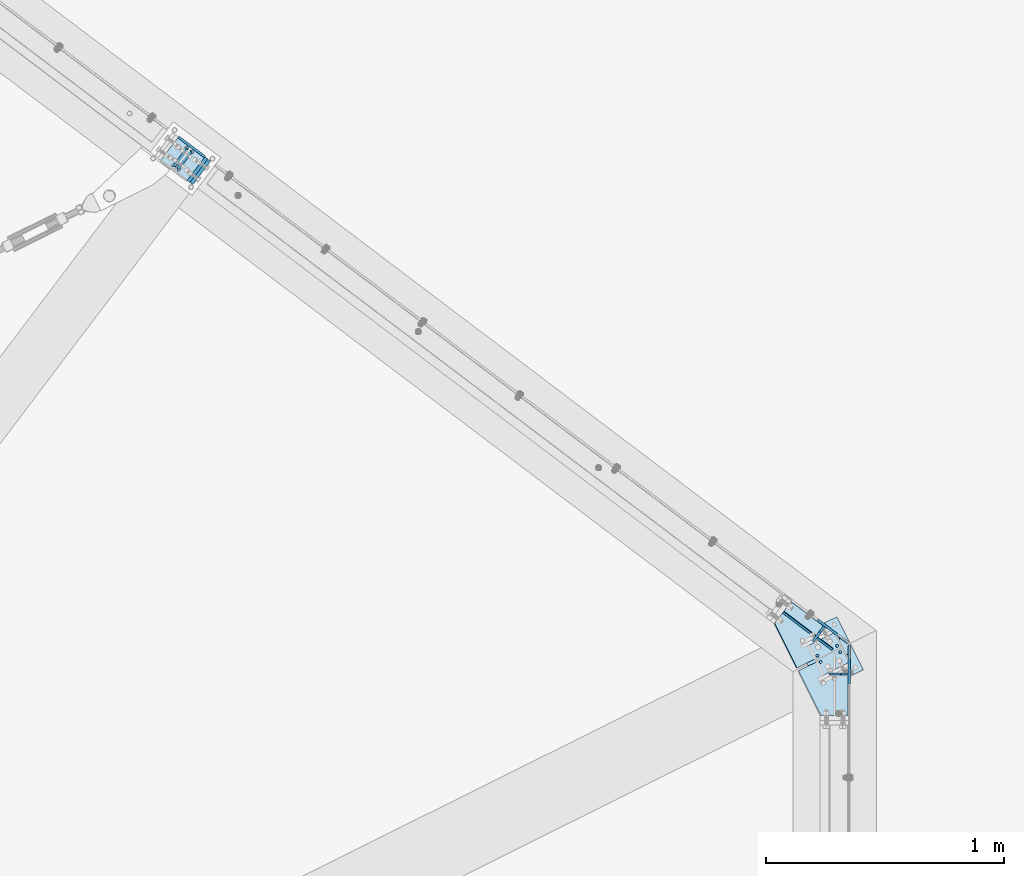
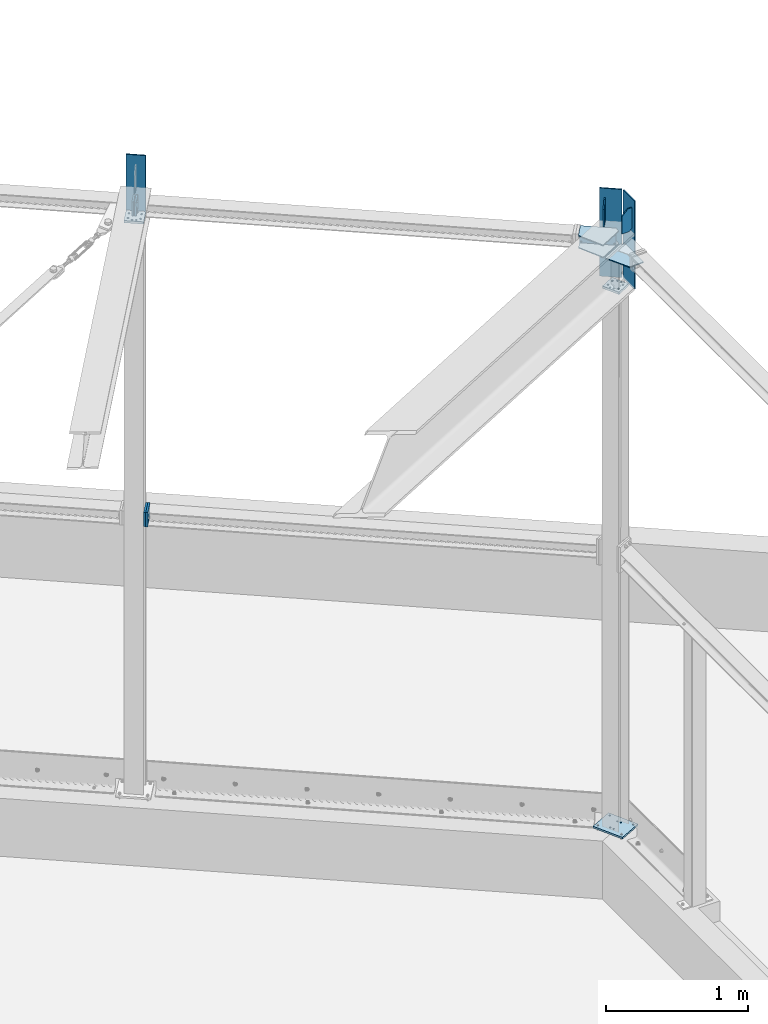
# One storey, part 66 of 476: 16 plates, 61 openings.
"""IFC2X3 building model written with IfcOpenShell, lengths in millimetres."""

from ifc_helpers import new_model, entity, si_unit, converted_unit, frame, frame_2d, origin, origin_with_axes, origin_2d_with_axis, place, context, project, spatial, polyline, circle, outline, extrude, material, layer, layer_set, element, save


model = new_model("IFC2X3")

# Units and contexts
model_context = context("Model", 3, precision=1e-09, world=origin_with_axes())
ifc_project = project(units=[si_unit("LENGTHUNIT", "METRE", prefix="MILLI"), si_unit("AREAUNIT", "SQUARE_METRE"), si_unit("VOLUMEUNIT", "CUBIC_METRE"), converted_unit("PLANEANGLEUNIT", "DEGREE", entity("IfcPlaneAngleMeasure", 0.01745329), si_unit("PLANEANGLEUNIT", "RADIAN"), dimensions=[0, 0, 0, 0, 0, 0, 0])], contexts=[model_context])

# Site, building, storey
site_placement = place(None, origin_with_axes())
site = spatial("IfcSite", under=ifc_project, at=site_placement, Name="mKR Teilneubau & Sanierung BA1 - Ostfildern", CompositionType="ELEMENT")
building_placement = place(site_placement, origin_with_axes())
building = spatial("IfcBuilding", under=site, at=building_placement, Name="Struktur 1", CompositionType="ELEMENT")
storey_placement = place(building_placement, origin_with_axes())
storey = spatial("IfcBuildingStorey", under=building, at=storey_placement, Name="Default Storey", CompositionType="ELEMENT", Elevation=0.0)

# Plate, openings
ifc_material = material(Name="S235JR")
ifc_layer_1 = layer(ifc_material, 10.0)
ifc_layer_set_1 = layer_set([ifc_layer_1], Name="S235JR")
plate_1_placement = place(None, frame((21942.107764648, 829.960737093, 5888.279672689), z_axis=(0.0, 1.0, 0.0), x_axis=(1.0, 0.0, 0.0)))
plate_1 = element("IfcPlate", 1, at=plate_1_placement, inside=storey, material=ifc_layer_set_1, Name="-", ObjectType="-", context=model_context, shape_type="SweptSolid", body=[
    extrude(outline(polyline([(0.0, 0.0), (80.0, 0.0), (80.0, 197.595559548), (0.0, 200.0), (0.0, 0.0)])), origin_with_axes(), (0.0, 0.0, -1.0), 10.0),
])
opening_1_placement = place(plate_1_placement, frame((0.0, 0.0, 0.01), z_axis=(0.0, 0.0, 1.0), x_axis=(1.0, 0.0, 0.0)))
element("IfcOpeningElement", 2, at=opening_1_placement, cuts=plate_1, ObjectType="Opening", context=model_context, shape_type="SweptSolid", body=[
    extrude(outline(polyline([(0.0, 0.0), (50.0, 0.0), (0.0, 50.0), (0.0, 0.0)])), origin(), (0.0, 0.0, -1.0), 10.02),
])
opening_2_placement = place(plate_1_placement, frame((80.0, 197.595559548, 0.01), z_axis=(0.0, 0.0, 1.0), x_axis=(-0.999548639, 0.03004194, 0.0)))
element("IfcOpeningElement", 3, at=opening_2_placement, cuts=plate_1, ObjectType="Opening", context=model_context, shape_type="SweptSolid", body=[
    extrude(outline(polyline([(0.0, 0.0), (20.0, 0.0), (-0.600838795, 19.990972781), (0.0, 0.0)])), origin(), (0.0, 0.0, -1.0), 10.02),
])

plate_2_placement = place(None, frame((21878.135988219, 958.45353355, 5888.279672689), z_axis=(-0.797941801, 0.602734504, 0.0), x_axis=(0.602734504, 0.797941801, 0.0)))
plate_2 = element("IfcPlate", 4, at=plate_2_placement, inside=storey, material=ifc_layer_set_1, Name="-", ObjectType="-", context=model_context, shape_type="SweptSolid", body=[
    extrude(outline(polyline([(0.0, 0.0), (80.0, 0.0), (80.0, 197.595559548), (0.0, 200.0), (0.0, 0.0)])), origin_with_axes(), (0.0, 0.0, 1.0), 10.0),
])
opening_3_placement = place(plate_2_placement, frame((0.0, 0.0, -0.01), z_axis=(0.0, 0.0, 1.0), x_axis=(1.0, 0.0, 0.0)))
element("IfcOpeningElement", 5, at=opening_3_placement, cuts=plate_2, ObjectType="Opening", context=model_context, shape_type="SweptSolid", body=[
    extrude(outline(polyline([(0.0, 0.0), (50.0, 0.0), (0.0, 50.0), (0.0, 0.0)])), origin(), (0.0, 0.0, 1.0), 10.02),
])
opening_4_placement = place(plate_2_placement, frame((0.0, 0.0, -0.01), z_axis=(0.0, 0.0, 1.0), x_axis=(1.0, 0.0, 0.0)))
element("IfcOpeningElement", 6, at=opening_4_placement, cuts=plate_2, ObjectType="Opening", context=model_context, shape_type="SweptSolid", body=[
    extrude(outline(polyline([(80.0, 197.595559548), (60.009027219, 198.196398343), (80.0, 177.595559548), (80.0, 197.595559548)])), origin(), (0.0, 0.0, 1.0), 10.02),
])

# Plate
plate_3_placement = place(None, frame((21906.406203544, 1037.357240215, 5205.506812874), z_axis=(-0.602734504, -0.797941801, 0.0), x_axis=(0.797941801, -0.602734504, 0.0)))
element("IfcPlate", 7, at=plate_3_placement, inside=storey, material=ifc_layer_set_1, Name="Coverplate", ObjectType="Coverplate", context=model_context, shape_type="SweptSolid", body=[
    extrude(outline(polyline([(-20.0, 0.0), (140.0, 0.0), (140.0, 760.177323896), (-20.0, 760.177323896), (-20.0, 0.0)])), origin_with_axes(), (0.0, 0.0, -1.0), 10.0),
])

# Plate, openings
ifc_layer_2 = layer(ifc_material, 8.0)
ifc_layer_set_2 = layer_set([ifc_layer_2], Name="S235JR")
plate_4_placement = place(None, frame((21907.107917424, 649.960737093, 5521.206813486), z_axis=(0.030041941, 0.0, -0.999548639), x_axis=(-0.445320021, 0.895271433, -0.013384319)))
plate_4 = element("IfcPlate", 8, at=plate_4_placement, inside=storey, material=ifc_layer_set_2, Name="-", ObjectType="-", context=model_context, shape_type="SweptSolid", body=[
    extrude(outline(polyline([(0.0, 0.0), (237.931881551, 0.0), (237.931881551, 297.115051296), (-71.28112416, 143.238900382), (0.0, 0.0)])), origin_with_axes(), (0.0, 0.0, 1.0), 8.0),
])
opening_5_placement = place(plate_4_placement, frame((309.302532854, 153.920703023, 4.0), z_axis=(-0.895271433, -0.445521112, 0.0), x_axis=(-0.445320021, 0.894867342, 0.030041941)))
element("IfcOpeningElement", 9, at=opening_5_placement, cuts=plate_4, ObjectType="Opening", context=model_context, shape_type="SweptSolid", body=[
    extrude(outline(polyline([(207.658577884, -38.236422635), (207.658577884, 35.563907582), (112.792834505, 35.563907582), (115.531864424, -55.568472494), (207.658577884, -38.236422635)])), origin(), (0.0, 0.0, 1.0), 345.584644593),
])
opening_6_placement = place(plate_4_placement, frame((1.1e-08, 297.215051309, 3.999999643), z_axis=(0.0, -1.0, 0.0), x_axis=(-0.999910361, 0.0, 0.013389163)))
element("IfcOpeningElement", 10, at=opening_6_placement, cuts=plate_4, ObjectType="Opening", context=model_context, shape_type="SweptSolid", body=[
    extrude(outline(polyline([(-210.088988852, -26.795765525), (-210.700481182, 18.870829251), (-272.102433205, 18.870829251), (-272.102433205, -23.599890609), (-210.088988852, -26.795765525)])), origin(), (0.0, 0.0, 1.0), 297.315051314),
])
opening_7_placement = place(plate_4_placement, frame((0.0, 0.0, 8.1), z_axis=(0.0, 0.0, -1.0), x_axis=(0.0, 1.0, 0.0)))
element("IfcOpeningElement", 11, at=opening_7_placement, cuts=plate_4, ObjectType="Opening", context=model_context, shape_type="SweptSolid", body=[
    extrude(outline(polyline([(181.091011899, 237.707172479), (233.378176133, 147.143147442), (262.158711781, 239.871578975), (181.091011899, 237.707172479)])), origin(), (0.0, 0.0, 1.0), 8.2),
])

plate_5_placement = place(None, frame((21711.491473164, 1036.476900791, 5627.158969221), z_axis=(-0.018107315, -0.023971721, 0.999548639), x_axis=(0.445964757, -0.894950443, -0.013384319)))
plate_5 = element("IfcPlate", 12, at=plate_5_placement, inside=storey, material=ifc_layer_set_2, Name="-", ObjectType="-", context=model_context, shape_type="SweptSolid", body=[
    extrude(outline(polyline([(0.0, 0.0), (237.931881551, 0.0), (237.931881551, 297.115051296), (-71.28112416, 143.238900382), (0.0, 0.0)])), origin_with_axes(), (0.0, 0.0, -1.0), 8.0),
])
opening_8_placement = place(plate_5_placement, frame((257.178248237, 258.664073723, 32.270431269), z_axis=(0.895271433, 0.445521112, 0.0), x_axis=(0.0, 0.0, -1.0)))
element("IfcOpeningElement", 13, at=opening_8_placement, cuts=plate_5, ObjectType="Opening", context=model_context, shape_type="SweptSolid", body=[
    extrude(outline(polyline([(0.0, 0.0), (60.949028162, 0.0), (63.158070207, 73.498744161), (9.367271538, 75.115453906), (0.0, 0.0)])), origin(), (0.0, 0.0, -1.0), 345.584644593),
])
opening_9_placement = place(plate_5_placement, frame((209.00955109, 297.215051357, -49.808173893), z_axis=(0.0, 1.0, 0.0), x_axis=(0.0, 0.0, 1.0)))
element("IfcOpeningElement", 14, at=opening_9_placement, cuts=plate_5, ObjectType="Opening", context=model_context, shape_type="SweptSolid", body=[
    extrude(outline(polyline([(0.0, 0.0), (80.872375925, 0.0), (81.6087688, 54.994238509), (21.617775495, 55.79753975), (0.0, 0.0)])), origin(), (0.0, 0.0, -1.0), 297.315051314),
])
opening_10_placement = place(plate_5_placement, frame((225.541767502, 190.14746393, -8.1), z_axis=(0.0, 0.0, -1.0), x_axis=(-0.866025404, 0.5, 0.0)))
element("IfcOpeningElement", 15, at=opening_10_placement, cuts=plate_5, ObjectType="Opening", context=model_context, shape_type="SweptSolid", body=[
    extrude(outline(polyline([(0.0, 0.0), (80.700001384, 0.0), (36.256955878, 82.750024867), (0.0, 0.0)])), origin(), (0.0, 0.0, -1.0), 8.2),
])

plate_6_placement = place(None, frame((21713.410848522, 1039.017903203, 5521.206813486), z_axis=(-0.018107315, -0.023971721, 0.999548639), x_axis=(0.445964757, -0.894950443, -0.013384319)))
plate_6 = element("IfcPlate", 16, at=plate_6_placement, inside=storey, material=ifc_layer_set_2, Name="-", ObjectType="-", context=model_context, shape_type="SweptSolid", body=[
    extrude(outline(polyline([(0.0, 0.0), (237.931881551, 0.0), (237.931881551, 297.115051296), (-71.28112416, 143.238900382), (0.0, 0.0)])), origin_with_axes(), (0.0, 0.0, -1.0), 8.0),
])
opening_11_placement = place(plate_6_placement, frame((217.339779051, 338.719187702, -48.457631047), z_axis=(0.895271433, 0.445521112, 0.0), x_axis=(-0.013384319, 0.026895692, 0.999548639)))
element("IfcOpeningElement", 17, at=opening_11_placement, cuts=plate_6, ObjectType="Opening", context=model_context, shape_type="SweptSolid", body=[
    extrude(outline(polyline([(0.0, 0.0), (73.800330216, 0.0), (73.800330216, 94.86574338), (-17.332049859, 92.12671346), (0.0, 0.0)])), origin(), (0.0, 0.0, -1.0), 345.584644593),
])
opening_12_placement = place(plate_6_placement, frame((210.428929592, 297.21505133, -27.98044756), z_axis=(0.0, 1.0, 0.0), x_axis=(0.0, 0.0, 1.0)))
element("IfcOpeningElement", 18, at=opening_12_placement, cuts=plate_6, ObjectType="Opening", context=model_context, shape_type="SweptSolid", body=[
    extrude(outline(polyline([(0.0, 0.0), (45.670688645, 0.0), (46.492809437, 61.396448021), (4.025896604, 61.965095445), (0.0, 0.0)])), origin(), (0.0, 0.0, -1.0), 297.315051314),
])
opening_13_placement = place(plate_6_placement, frame((237.707172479, 181.0910119, -8.1), z_axis=(0.0, 0.0, -1.0), x_axis=(-0.866025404, 0.5, 0.0)))
element("IfcOpeningElement", 19, at=opening_13_placement, cuts=plate_6, ObjectType="Opening", context=model_context, shape_type="SweptSolid", body=[
    extrude(outline(polyline([(0.0, 0.0), (104.574328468, 0.0), (38.659418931, 71.288890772), (0.0, 0.0)])), origin(), (0.0, 0.0, -1.0), 8.2),
])

plate_7_placement = place(None, frame((21855.343515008, 1010.132766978, 5572.107381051), z_axis=(0.602462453, 0.797581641, 0.030041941), x_axis=(-0.797941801, 0.602734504, 0.0)))
plate_7 = element("IfcPlate", 20, at=plate_7_placement, inside=storey, material=ifc_layer_set_2, Name="-", ObjectType="-", context=model_context, shape_type="SweptSolid", body=[
    extrude(outline(polyline([(-130.663075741, -49.0), (130.663075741, -49.0), (130.663075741, 49.0), (-130.663075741, 49.0), (-130.663075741, -49.0)])), origin_with_axes(), (0.0, 0.0, -1.0), 8.0),
])
opening_14_placement = place(plate_7_placement, frame((-112.662075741, 37.0, -8.5), z_axis=(0.0, 0.0, -1.0), x_axis=(-1.0, 0.0, 0.0)))
element("IfcOpeningElement", 21, at=opening_14_placement, cuts=plate_7, ObjectType="Opening", context=model_context, shape_type="SweptSolid", body=[
    extrude(circle(Radius=6.001, at=frame_2d((6.001, 0.0), x_axis=(1.0, 0.0))), origin(), (0.0, 0.0, -1.0), 9.0),
])
opening_15_placement = place(plate_7_placement, frame((124.665075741, 37.0, -8.5), z_axis=(0.0, 0.0, -1.0), x_axis=(-1.0, 0.0, 0.0)))
element("IfcOpeningElement", 22, at=opening_15_placement, cuts=plate_7, ObjectType="Opening", context=model_context, shape_type="SweptSolid", body=[
    extrude(circle(Radius=6.001, at=frame_2d((6.001, 0.0), x_axis=(1.0, 0.0))), origin(), (0.0, 0.0, -1.0), 9.0),
])
opening_16_placement = place(plate_7_placement, frame((-112.662075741, -37.0, -8.5), z_axis=(0.0, 0.0, -1.0), x_axis=(-1.0, 0.0, 0.0)))
element("IfcOpeningElement", 23, at=opening_16_placement, cuts=plate_7, ObjectType="Opening", context=model_context, shape_type="SweptSolid", body=[
    extrude(circle(Radius=6.001, at=frame_2d((6.001, 0.0), x_axis=(1.0, 0.0))), origin(), (0.0, 0.0, -1.0), 9.0),
])
opening_17_placement = place(plate_7_placement, frame((124.665075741, -37.0, -8.5), z_axis=(0.0, 0.0, -1.0), x_axis=(-1.0, 0.0, 0.0)))
element("IfcOpeningElement", 24, at=opening_17_placement, cuts=plate_7, ObjectType="Opening", context=model_context, shape_type="SweptSolid", body=[
    extrude(circle(Radius=6.001, at=frame_2d((6.001, 0.0), x_axis=(1.0, 0.0))), origin(), (0.0, 0.0, -1.0), 9.0),
])

ifc_layer_3 = layer(ifc_material, 15.0)
ifc_layer_set_3 = layer_set([ifc_layer_3], Name="S235JR")
plate_8_placement = place(None, frame((21907.563942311, 753.308658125, 540.0), z_axis=(0.0, 0.0, -1.0), x_axis=(-0.44568234, 0.895191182, 0.0)))
plate_8 = element("IfcPlate", 25, at=plate_8_placement, inside=storey, material=ifc_layer_set_3, Name="Baseplate", ObjectType="Baseplate", context=model_context, shape_type="SweptSolid", body=[
    extrude(outline(polyline([(0.0, 0.0), (250.0, 0.0), (250.0, 200.0), (0.0, 200.0), (0.0, 0.0)])), origin_with_axes(), (0.0, 0.0, 1.0), 15.0),
])
opening_18_placement = place(plate_8_placement, frame((139.75, 146.0, 15.5), z_axis=(0.0, 0.0, -1.0), x_axis=(0.0, 1.0, 0.0)))
element("IfcOpeningElement", 26, at=opening_18_placement, cuts=plate_8, ObjectType="Opening", context=model_context, shape_type="SweptSolid", body=[
    extrude(circle(Radius=6.001, at=origin_2d_with_axis()), origin(), (0.0, 0.0, 1.0), 16.0),
])
opening_19_placement = place(plate_8_placement, frame((139.75, 54.0, 15.5), z_axis=(0.0, 0.0, -1.0), x_axis=(0.0, 1.0, 0.0)))
element("IfcOpeningElement", 27, at=opening_19_placement, cuts=plate_8, ObjectType="Opening", context=model_context, shape_type="SweptSolid", body=[
    extrude(circle(Radius=6.001, at=origin_2d_with_axis()), origin(), (0.0, 0.0, 1.0), 16.0),
])
opening_20_placement = place(plate_8_placement, frame((110.25, 54.0, 15.5), z_axis=(0.0, 0.0, -1.0), x_axis=(0.0, 1.0, 0.0)))
element("IfcOpeningElement", 28, at=opening_20_placement, cuts=plate_8, ObjectType="Opening", context=model_context, shape_type="SweptSolid", body=[
    extrude(circle(Radius=6.001, at=origin_2d_with_axis()), origin(), (0.0, 0.0, 1.0), 16.0),
])
opening_21_placement = place(plate_8_placement, frame((110.25, 146.0, 15.5), z_axis=(0.0, 0.0, -1.0), x_axis=(0.0, 1.0, 0.0)))
element("IfcOpeningElement", 29, at=opening_21_placement, cuts=plate_8, ObjectType="Opening", context=model_context, shape_type="SweptSolid", body=[
    extrude(circle(Radius=6.001, at=origin_2d_with_axis()), origin(), (0.0, 0.0, 1.0), 16.0),
])
opening_22_placement = place(plate_8_placement, frame((125.0, 100.0, 15.5), z_axis=(0.0, 0.0, -1.0), x_axis=(1.0, 0.0, 0.0)))
element("IfcOpeningElement", 30, at=opening_22_placement, cuts=plate_8, ObjectType="Opening", context=model_context, shape_type="SweptSolid", body=[
    extrude(circle(Radius=6.001, at=frame_2d((100.0, 75.0), x_axis=(1.0, 0.0))), origin(), (0.0, 0.0, 1.0), 16.0),
])
opening_23_placement = place(plate_8_placement, frame((125.0, 100.0, 15.5), z_axis=(0.0, 0.0, -1.0), x_axis=(1.0, 0.0, 0.0)))
element("IfcOpeningElement", 31, at=opening_23_placement, cuts=plate_8, ObjectType="Opening", context=model_context, shape_type="SweptSolid", body=[
    extrude(circle(Radius=6.001, at=frame_2d((-100.0, 75.0), x_axis=(1.0, 0.0))), origin(), (0.0, 0.0, 1.0), 16.0),
])
opening_24_placement = place(plate_8_placement, frame((125.0, 100.0, 15.5), z_axis=(0.0, 0.0, -1.0), x_axis=(1.0, 0.0, 0.0)))
element("IfcOpeningElement", 32, at=opening_24_placement, cuts=plate_8, ObjectType="Opening", context=model_context, shape_type="SweptSolid", body=[
    extrude(circle(Radius=6.001, at=frame_2d((100.0, -75.0), x_axis=(1.0, 0.0))), origin(), (0.0, 0.0, 1.0), 16.0),
])
opening_25_placement = place(plate_8_placement, frame((125.0, 100.0, 15.5), z_axis=(0.0, 0.0, -1.0), x_axis=(1.0, 0.0, 0.0)))
element("IfcOpeningElement", 33, at=opening_25_placement, cuts=plate_8, ObjectType="Opening", context=model_context, shape_type="SweptSolid", body=[
    extrude(circle(Radius=6.001, at=frame_2d((-100.0, -75.0), x_axis=(1.0, 0.0))), origin(), (0.0, 0.0, 1.0), 16.0),
])

plate_9_placement = place(None, frame((19304.270178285, 2932.102838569, 2912.000000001), z_axis=(-0.797941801, 0.602734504, 0.0), x_axis=(0.0, 0.0, -1.0)))
plate_9 = element("IfcPlate", 34, at=plate_9_placement, inside=storey, material=ifc_layer_set_3, Name="Endplate#1", ObjectType="Endplate#1", context=model_context, shape_type="SweptSolid", body=[
    extrude(outline(polyline([(-62.0, -62.0), (62.0, -62.0), (62.0, 62.0), (-62.0, 62.0), (-62.0, -62.0)])), origin_with_axes(), (0.0, 0.0, 1.0), 15.0),
])
opening_26_placement = place(plate_9_placement, frame((37.0, 14.5, 15.5), z_axis=(0.0, 0.0, -1.0), x_axis=(-1.0, 0.0, 0.0)))
element("IfcOpeningElement", 35, at=opening_26_placement, cuts=plate_9, ObjectType="Opening", context=model_context, shape_type="SweptSolid", body=[
    extrude(circle(Radius=6.001, at=origin_2d_with_axis()), origin(), (0.0, 0.0, 1.0), 16.0),
])
opening_27_placement = place(plate_9_placement, frame((-37.0, 14.5, 15.5), z_axis=(0.0, 0.0, -1.0), x_axis=(-1.0, 0.0, 0.0)))
element("IfcOpeningElement", 36, at=opening_27_placement, cuts=plate_9, ObjectType="Opening", context=model_context, shape_type="SweptSolid", body=[
    extrude(circle(Radius=6.001, at=origin_2d_with_axis()), origin(), (0.0, 0.0, 1.0), 16.0),
])
opening_28_placement = place(plate_9_placement, frame((-37.0, -14.5, 15.5), z_axis=(0.0, 0.0, -1.0), x_axis=(-1.0, 0.0, 0.0)))
element("IfcOpeningElement", 37, at=opening_28_placement, cuts=plate_9, ObjectType="Opening", context=model_context, shape_type="SweptSolid", body=[
    extrude(circle(Radius=6.001, at=origin_2d_with_axis()), origin(), (0.0, 0.0, 1.0), 16.0),
])
opening_29_placement = place(plate_9_placement, frame((37.0, -14.5, 15.5), z_axis=(0.0, 0.0, -1.0), x_axis=(-1.0, 0.0, 0.0)))
element("IfcOpeningElement", 38, at=opening_29_placement, cuts=plate_9, ObjectType="Opening", context=model_context, shape_type="SweptSolid", body=[
    extrude(circle(Radius=6.001, at=origin_2d_with_axis()), origin(), (0.0, 0.0, 1.0), 16.0),
])
opening_30_placement = place(plate_9_placement, frame((0.0, 30.0, 15.5), z_axis=(0.0, 0.0, -1.0), x_axis=(-1.0, 0.0, 0.0)))
element("IfcOpeningElement", 39, at=opening_30_placement, cuts=plate_9, ObjectType="Opening", context=model_context, shape_type="SweptSolid", body=[
    extrude(circle(Radius=7.001, at=origin_2d_with_axis()), origin(), (0.0, 0.0, 1.0), 16.0),
])
opening_31_placement = place(plate_9_placement, frame((0.0, -30.0, 15.5), z_axis=(0.0, 0.0, -1.0), x_axis=(0.0, -1.0, 0.0)))
element("IfcOpeningElement", 40, at=opening_31_placement, cuts=plate_9, ObjectType="Opening", context=model_context, shape_type="SweptSolid", body=[
    extrude(circle(Radius=7.001, at=origin_2d_with_axis()), origin(), (0.0, 0.0, 1.0), 16.0),
])

plate_10_placement = place(None, frame((19280.332787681, 2950.186016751, 2912.000000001), z_axis=(0.797941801, -0.602734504, 0.0), x_axis=(-0.602734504, -0.797941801, 0.0)))
plate_10 = element("IfcPlate", 41, at=plate_10_placement, inside=storey, material=ifc_layer_set_3, Name="T-plate", ObjectType="T-plate", context=model_context, shape_type="SweptSolid", body=[
    extrude(outline(polyline([(-62.0, -62.0), (62.0, -62.0), (62.0, 62.0), (-62.0, 62.0), (-62.0, -62.0)])), origin_with_axes(), (0.0, 0.0, 1.0), 15.0),
])
opening_32_placement = place(plate_10_placement, frame((30.001432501, 0.0, -0.5), z_axis=(0.0, 0.0, 1.0), x_axis=(0.0, -1.0, 0.0)))
element("IfcOpeningElement", 42, at=opening_32_placement, cuts=plate_10, ObjectType="Opening", context=model_context, shape_type="SweptSolid", body=[
    extrude(circle(Radius=7.001, at=origin_2d_with_axis()), origin(), (0.0, 0.0, 1.0), 16.0),
])
opening_33_placement = place(plate_10_placement, frame((-29.998567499, 0.0, -0.5), z_axis=(0.0, 0.0, 1.0), x_axis=(-1.0, 0.0, 0.0)))
element("IfcOpeningElement", 43, at=opening_33_placement, cuts=plate_10, ObjectType="Opening", context=model_context, shape_type="SweptSolid", body=[
    extrude(circle(Radius=7.001, at=origin_2d_with_axis()), origin(), (0.0, 0.0, 1.0), 16.0),
])

ifc_layer_4 = layer(ifc_material, 12.0)
ifc_layer_set_4 = layer_set([ifc_layer_4], Name="S235JR")
plate_11_placement = place(None, frame((19253.256957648, 3024.67165364, 5635.311051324), z_axis=(0.797941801, -0.602734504, 0.0), x_axis=(-0.602462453, -0.797581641, -0.030041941)))
plate_11 = element("IfcPlate", 44, at=plate_11_placement, inside=storey, material=ifc_layer_set_4, Name="Endplate", ObjectType="Endplate", context=model_context, shape_type="SweptSolid", body=[
    extrude(outline(polyline([(0.0, 0.0), (90.0, 0.0), (90.0, 124.0), (0.0, 124.0), (0.0, 0.0)])), origin_with_axes(), (0.0, 0.0, 1.0), 12.0),
])
opening_34_placement = place(plate_11_placement, frame((59.5, 99.0, -0.5), z_axis=(0.0, 0.0, 1.0), x_axis=(0.0, -1.0, 0.0)))
element("IfcOpeningElement", 45, at=opening_34_placement, cuts=plate_11, ObjectType="Opening", context=model_context, shape_type="SweptSolid", body=[
    extrude(circle(Radius=6.001, at=origin_2d_with_axis()), origin(), (0.0, 0.0, 1.0), 13.0),
])
opening_35_placement = place(plate_11_placement, frame((59.5, 25.0, -0.5), z_axis=(0.0, 0.0, 1.0), x_axis=(0.0, -1.0, 0.0)))
element("IfcOpeningElement", 46, at=opening_35_placement, cuts=plate_11, ObjectType="Opening", context=model_context, shape_type="SweptSolid", body=[
    extrude(circle(Radius=6.001, at=origin_2d_with_axis()), origin(), (0.0, 0.0, 1.0), 13.0),
])
opening_36_placement = place(plate_11_placement, frame((30.5, 25.0, -0.5), z_axis=(0.0, 0.0, 1.0), x_axis=(0.0, -1.0, 0.0)))
element("IfcOpeningElement", 47, at=opening_36_placement, cuts=plate_11, ObjectType="Opening", context=model_context, shape_type="SweptSolid", body=[
    extrude(circle(Radius=6.001, at=origin_2d_with_axis()), origin(), (0.0, 0.0, 1.0), 13.0),
])
opening_37_placement = place(plate_11_placement, frame((30.5, 99.0, -0.5), z_axis=(0.0, 0.0, 1.0), x_axis=(0.0, -1.0, 0.0)))
element("IfcOpeningElement", 48, at=opening_37_placement, cuts=plate_11, ObjectType="Opening", context=model_context, shape_type="SweptSolid", body=[
    extrude(circle(Radius=6.001, at=origin_2d_with_axis()), origin(), (0.0, 0.0, 1.0), 13.0),
])
opening_38_placement = place(plate_11_placement, frame((20.0, 62.0, -0.5), z_axis=(0.0, 0.0, 1.0), x_axis=(0.0, -1.0, 0.0)))
element("IfcOpeningElement", 49, at=opening_38_placement, cuts=plate_11, ObjectType="Opening", context=model_context, shape_type="SweptSolid", body=[
    extrude(circle(Radius=7.001, at=origin_2d_with_axis()), origin(), (0.0, 0.0, 1.0), 13.0),
])
opening_39_placement = place(plate_11_placement, frame((70.0, 62.0, -0.5), z_axis=(0.0, 0.0, 1.0), x_axis=(0.0, -1.0, 0.0)))
element("IfcOpeningElement", 50, at=opening_39_placement, cuts=plate_11, ObjectType="Opening", context=model_context, shape_type="SweptSolid", body=[
    extrude(circle(Radius=7.001, at=origin_2d_with_axis()), origin(), (0.0, 0.0, 1.0), 13.0),
])

plate_12_placement = place(None, frame((19193.449746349, 2957.108450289, 5632.607276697), z_axis=(-0.797941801, 0.602734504, 0.0), x_axis=(0.602462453, 0.797581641, 0.030041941)))
plate_12 = element("IfcPlate", 51, at=plate_12_placement, inside=storey, material=ifc_layer_set_4, Name="Endplate", ObjectType="Endplate", context=model_context, shape_type="SweptSolid", body=[
    extrude(outline(polyline([(0.0, 0.0), (90.0, 0.0), (90.0, 124.0), (0.0, 124.0), (0.0, 0.0)])), origin_with_axes(), (0.0, 0.0, 1.0), 12.0),
])
opening_40_placement = place(plate_12_placement, frame((30.5, 99.0, -0.5), z_axis=(0.0, 0.0, 1.0), x_axis=(0.0, 1.0, 0.0)))
element("IfcOpeningElement", 52, at=opening_40_placement, cuts=plate_12, ObjectType="Opening", context=model_context, shape_type="SweptSolid", body=[
    extrude(circle(Radius=6.001, at=origin_2d_with_axis()), origin(), (0.0, 0.0, 1.0), 13.0),
])
opening_41_placement = place(plate_12_placement, frame((30.5, 25.0, -0.5), z_axis=(0.0, 0.0, 1.0), x_axis=(0.0, 1.0, 0.0)))
element("IfcOpeningElement", 53, at=opening_41_placement, cuts=plate_12, ObjectType="Opening", context=model_context, shape_type="SweptSolid", body=[
    extrude(circle(Radius=6.001, at=origin_2d_with_axis()), origin(), (0.0, 0.0, 1.0), 13.0),
])
opening_42_placement = place(plate_12_placement, frame((59.5, 25.0, -0.5), z_axis=(0.0, 0.0, 1.0), x_axis=(0.0, 1.0, 0.0)))
element("IfcOpeningElement", 54, at=opening_42_placement, cuts=plate_12, ObjectType="Opening", context=model_context, shape_type="SweptSolid", body=[
    extrude(circle(Radius=6.001, at=origin_2d_with_axis()), origin(), (0.0, 0.0, 1.0), 13.0),
])
opening_43_placement = place(plate_12_placement, frame((59.5, 99.0, -0.5), z_axis=(0.0, 0.0, 1.0), x_axis=(0.0, 1.0, 0.0)))
element("IfcOpeningElement", 55, at=opening_43_placement, cuts=plate_12, ObjectType="Opening", context=model_context, shape_type="SweptSolid", body=[
    extrude(circle(Radius=6.001, at=origin_2d_with_axis()), origin(), (0.0, 0.0, 1.0), 13.0),
])
opening_44_placement = place(plate_12_placement, frame((69.999996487, 62.0, 12.5), z_axis=(0.0, 0.0, -1.0), x_axis=(0.0, -1.0, 0.0)))
element("IfcOpeningElement", 56, at=opening_44_placement, cuts=plate_12, ObjectType="Opening", context=model_context, shape_type="SweptSolid", body=[
    extrude(circle(Radius=7.001, at=origin_2d_with_axis()), origin(), (0.0, 0.0, 1.0), 13.0),
])
opening_45_placement = place(plate_12_placement, frame((19.999996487, 62.0, 12.5), z_axis=(0.0, 0.0, -1.0), x_axis=(0.0, -1.0, 0.0)))
element("IfcOpeningElement", 57, at=opening_45_placement, cuts=plate_12, ObjectType="Opening", context=model_context, shape_type="SweptSolid", body=[
    extrude(circle(Radius=7.001, at=origin_2d_with_axis()), origin(), (0.0, 0.0, 1.0), 13.0),
])

# Plate
plate_13_placement = place(None, frame((22022.107764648, 804.960737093, 5205.506812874), z_axis=(1.0, 0.0, 0.0), x_axis=(0.0, 1.0, 0.0)))
element("IfcPlate", 58, at=plate_13_placement, inside=storey, material=ifc_layer_set_1, Name="Coverplate", ObjectType="Coverplate", context=model_context, shape_type="SweptSolid", body=[
    extrude(outline(polyline([(-20.0, 0.0), (140.0, 0.0), (140.0, 760.177323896), (-20.0, 760.177323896), (-20.0, 0.0)])), origin_with_axes(), (0.0, 0.0, 1.0), 10.0),
])

# Plate, openings
ifc_layer_5 = layer(ifc_material, 20.0)
ifc_layer_set_5 = layer_set([ifc_layer_5], Name="S235JR")
plate_14_placement = place(None, frame((22027.626408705, 874.522677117, 5179.727896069), z_axis=(-0.024076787, -0.011986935, 0.999638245), x_axis=(-0.44568234, 0.895191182, 0.0)))
plate_14 = element("IfcPlate", 59, at=plate_14_placement, inside=storey, material=ifc_layer_set_5, Name="Endplate", ObjectType="Endplate", context=model_context, shape_type="SweptSolid", body=[
    extrude(outline(polyline([(0.0, 0.0), (140.0, 0.0), (140.0, 123.048130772), (0.0, 123.048130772), (0.0, 0.0)])), origin_with_axes(), (0.0, 0.0, 1.0), 20.0),
])
opening_46_placement = place(plate_14_placement, frame((107.999, 34.03, -0.5), z_axis=(0.0, 0.0, -1.0), x_axis=(-1.0, 0.0, 0.0)))
element("IfcOpeningElement", 60, at=opening_46_placement, cuts=plate_14, ObjectType="Opening", context=model_context, shape_type="SweptSolid", body=[
    extrude(circle(Radius=7.001, at=frame_2d((-7.001, 0.0), x_axis=(1.0, 0.0))), origin(), (0.0, 0.0, -1.0), 21.0),
])
opening_47_placement = place(plate_14_placement, frame((17.999, 34.03, -0.5), z_axis=(0.0, 0.0, -1.0), x_axis=(-1.0, 0.0, 0.0)))
element("IfcOpeningElement", 61, at=opening_47_placement, cuts=plate_14, ObjectType="Opening", context=model_context, shape_type="SweptSolid", body=[
    extrude(circle(Radius=7.001, at=frame_2d((-7.001, 0.0), x_axis=(1.0, 0.0))), origin(), (0.0, 0.0, -1.0), 21.0),
])
opening_48_placement = place(plate_14_placement, frame((17.999, 89.03, -0.5), z_axis=(0.0, 0.0, -1.0), x_axis=(-1.0, 0.0, 0.0)))
element("IfcOpeningElement", 62, at=opening_48_placement, cuts=plate_14, ObjectType="Opening", context=model_context, shape_type="SweptSolid", body=[
    extrude(circle(Radius=7.001, at=frame_2d((-7.001, 0.0), x_axis=(1.0, 0.0))), origin(), (0.0, 0.0, -1.0), 21.0),
])
opening_49_placement = place(plate_14_placement, frame((107.999, 89.03, -0.5), z_axis=(0.0, 0.0, -1.0), x_axis=(-1.0, 0.0, 0.0)))
element("IfcOpeningElement", 63, at=opening_49_placement, cuts=plate_14, ObjectType="Opening", context=model_context, shape_type="SweptSolid", body=[
    extrude(circle(Radius=7.001, at=frame_2d((-7.001, 0.0), x_axis=(1.0, 0.0))), origin(), (0.0, 0.0, -1.0), 21.0),
])
opening_50_placement = place(plate_14_placement, frame((84.75, 15.503076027, 20.5), z_axis=(0.0, 0.0, -1.0), x_axis=(0.0, 1.0, 0.0)))
element("IfcOpeningElement", 64, at=opening_50_placement, cuts=plate_14, ObjectType="Opening", context=model_context, shape_type="SweptSolid", body=[
    extrude(circle(Radius=6.001, at=origin_2d_with_axis()), origin(), (0.0, 0.0, 1.0), 21.0),
])
opening_51_placement = place(plate_14_placement, frame((84.75, 107.545054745, 20.5), z_axis=(0.0, 0.0, -1.0), x_axis=(0.0, 1.0, 0.0)))
element("IfcOpeningElement", 65, at=opening_51_placement, cuts=plate_14, ObjectType="Opening", context=model_context, shape_type="SweptSolid", body=[
    extrude(circle(Radius=6.001, at=origin_2d_with_axis()), origin(), (0.0, 0.0, 1.0), 21.0),
])
opening_52_placement = place(plate_14_placement, frame((55.25, 107.545054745, 20.5), z_axis=(0.0, 0.0, -1.0), x_axis=(0.0, 1.0, 0.0)))
element("IfcOpeningElement", 66, at=opening_52_placement, cuts=plate_14, ObjectType="Opening", context=model_context, shape_type="SweptSolid", body=[
    extrude(circle(Radius=6.001, at=origin_2d_with_axis()), origin(), (0.0, 0.0, 1.0), 21.0),
])
opening_53_placement = place(plate_14_placement, frame((55.25, 15.503076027, 20.5), z_axis=(0.0, 0.0, -1.0), x_axis=(0.0, 1.0, 0.0)))
element("IfcOpeningElement", 67, at=opening_53_placement, cuts=plate_14, ObjectType="Opening", context=model_context, shape_type="SweptSolid", body=[
    extrude(circle(Radius=6.001, at=origin_2d_with_axis()), origin(), (0.0, 0.0, 1.0), 21.0),
])

# Plate
plate_15_placement = place(None, frame((19314.387287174, 2995.269728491, 5485.616241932), z_axis=(0.602734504, 0.797941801, 0.0), x_axis=(-0.797941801, 0.602734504, 0.0)))
element("IfcPlate", 68, at=plate_15_placement, inside=storey, material=ifc_layer_set_1, Name="Coverplate", ObjectType="Coverplate", context=model_context, shape_type="SweptSolid", body=[
    extrude(outline(polyline([(0.0, 0.0), (140.0, 0.0), (140.0, 480.094828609), (0.0, 480.094828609), (0.0, 0.0)])), origin_with_axes(), (0.0, 0.0, 1.0), 10.0),
])

# Plate, openings
plate_16_placement = place(None, frame((19317.402319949, 2999.261238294, 5460.757556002), z_axis=(-0.018107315, -0.023971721, 0.999548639), x_axis=(-0.797941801, 0.602734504, 0.0)))
plate_16 = element("IfcPlate", 69, at=plate_16_placement, inside=storey, material=ifc_layer_set_5, Name="Endplate", ObjectType="Endplate", context=model_context, shape_type="SweptSolid", body=[
    extrude(outline(polyline([(0.0, 0.0), (140.0, 0.0), (140.0, 123.060058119), (0.0, 123.060058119), (0.0, 0.0)])), origin_with_axes(), (0.0, 0.0, 1.0), 20.0),
])
opening_54_placement = place(plate_16_placement, frame((55.25, 107.556219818, 20.5), z_axis=(0.0, 0.0, -1.0), x_axis=(0.0, -1.0, 0.0)))
element("IfcOpeningElement", 70, at=opening_54_placement, cuts=plate_16, ObjectType="Opening", context=model_context, shape_type="SweptSolid", body=[
    extrude(circle(Radius=6.001, at=origin_2d_with_axis()), origin(), (0.0, 0.0, 1.0), 21.0),
])
opening_55_placement = place(plate_16_placement, frame((55.25, 15.503838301, 20.5), z_axis=(0.0, 0.0, -1.0), x_axis=(0.0, -1.0, 0.0)))
element("IfcOpeningElement", 71, at=opening_55_placement, cuts=plate_16, ObjectType="Opening", context=model_context, shape_type="SweptSolid", body=[
    extrude(circle(Radius=6.001, at=origin_2d_with_axis()), origin(), (0.0, 0.0, 1.0), 21.0),
])
opening_56_placement = place(plate_16_placement, frame((84.75, 15.503838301, 20.5), z_axis=(0.0, 0.0, -1.0), x_axis=(0.0, -1.0, 0.0)))
element("IfcOpeningElement", 72, at=opening_56_placement, cuts=plate_16, ObjectType="Opening", context=model_context, shape_type="SweptSolid", body=[
    extrude(circle(Radius=6.001, at=origin_2d_with_axis()), origin(), (0.0, 0.0, 1.0), 21.0),
])
opening_57_placement = place(plate_16_placement, frame((84.75, 107.556219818, 20.5), z_axis=(0.0, 0.0, -1.0), x_axis=(0.0, -1.0, 0.0)))
element("IfcOpeningElement", 73, at=opening_57_placement, cuts=plate_16, ObjectType="Opening", context=model_context, shape_type="SweptSolid", body=[
    extrude(circle(Radius=6.001, at=origin_2d_with_axis()), origin(), (0.0, 0.0, 1.0), 21.0),
])
opening_58_placement = place(plate_16_placement, frame((107.999, 34.03, -0.5), z_axis=(0.0, 0.0, -1.0), x_axis=(-1.0, 0.0, 0.0)))
element("IfcOpeningElement", 74, at=opening_58_placement, cuts=plate_16, ObjectType="Opening", context=model_context, shape_type="SweptSolid", body=[
    extrude(circle(Radius=7.001, at=frame_2d((-7.001, 0.0), x_axis=(1.0, 0.0))), origin(), (0.0, 0.0, -1.0), 21.0),
])
opening_59_placement = place(plate_16_placement, frame((107.999, 89.03, -0.5), z_axis=(0.0, 0.0, -1.0), x_axis=(-1.0, 0.0, 0.0)))
element("IfcOpeningElement", 75, at=opening_59_placement, cuts=plate_16, ObjectType="Opening", context=model_context, shape_type="SweptSolid", body=[
    extrude(circle(Radius=7.001, at=frame_2d((-7.001, 0.0), x_axis=(1.0, 0.0))), origin(), (0.0, 0.0, -1.0), 21.0),
])
opening_60_placement = place(plate_16_placement, frame((17.999, 34.03, -0.5), z_axis=(0.0, 0.0, -1.0), x_axis=(-1.0, 0.0, 0.0)))
element("IfcOpeningElement", 76, at=opening_60_placement, cuts=plate_16, ObjectType="Opening", context=model_context, shape_type="SweptSolid", body=[
    extrude(circle(Radius=7.001, at=frame_2d((-7.001, 0.0), x_axis=(1.0, 0.0))), origin(), (0.0, 0.0, -1.0), 21.0),
])
opening_61_placement = place(plate_16_placement, frame((17.999, 89.03, -0.5), z_axis=(0.0, 0.0, -1.0), x_axis=(-1.0, 0.0, 0.0)))
element("IfcOpeningElement", 77, at=opening_61_placement, cuts=plate_16, ObjectType="Opening", context=model_context, shape_type="SweptSolid", body=[
    extrude(circle(Radius=7.001, at=frame_2d((-7.001, 0.0), x_axis=(1.0, 0.0))), origin(), (0.0, 0.0, -1.0), 21.0),
])

save(model, "model.ifc")
